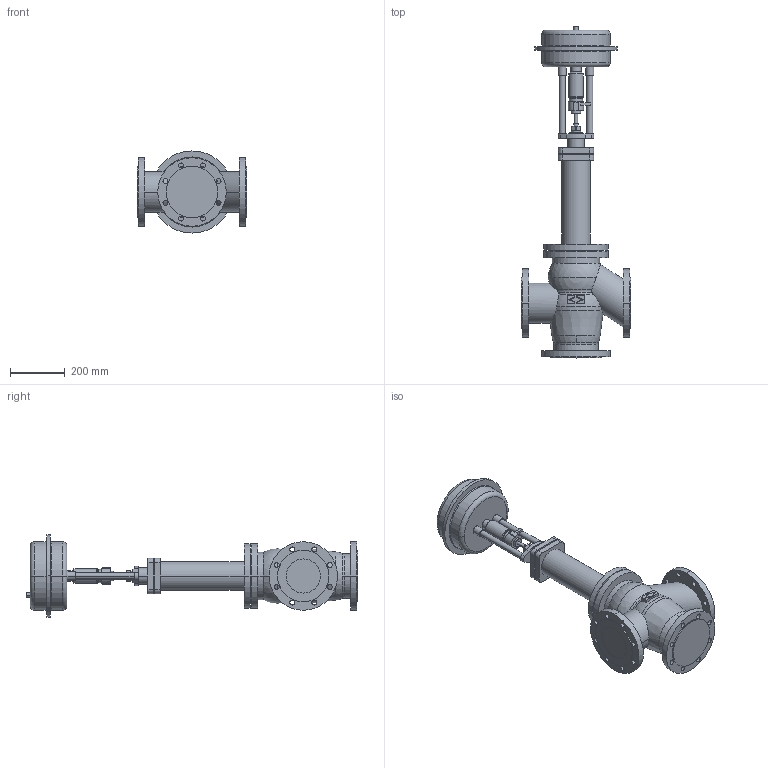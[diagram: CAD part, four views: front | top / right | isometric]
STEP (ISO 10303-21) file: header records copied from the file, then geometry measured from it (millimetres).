
FILE_DESCRIPTION(('OneSpaceDesigner STEP Export'),'2;1');
FILE_NAME('c000000436.stp','2007-01-26T13:15:26',(''),(''),'OneSpace Designer STEP processor for AP214 (Solid Model)','OneSpace Designer 14.00B 27-May-2006 (C) CoCreate Software GmbH','');
FILE_SCHEMA(('AUTOMOTIVE_DESIGN { 1 0 10303 214 1 1 1 1 }'));
Length unit declared in the file: millimetre
Products named in the file (2): 1; 2
Bounding box: 400 x 1212.8 x 300 mm (x, y, z)
Volume: 29042832.1 mm3; surface area: 1200214.6 mm2
Topology: 2 solids, 2 shells, 267 faces, 667 edges, 432 vertices
Faces by surface type: cylinder 136, plane 93, torus 24, sphere 8, cone 6
Entity records: 7307 total; most frequent: CARTESIAN_POINT 1444, ORIENTED_EDGE 1318, DIRECTION 1072, EDGE_CURVE 659, VERTEX_POINT 432, AXIS2_PLACEMENT_3D 397, EDGE_LOOP 351, VECTOR 278
